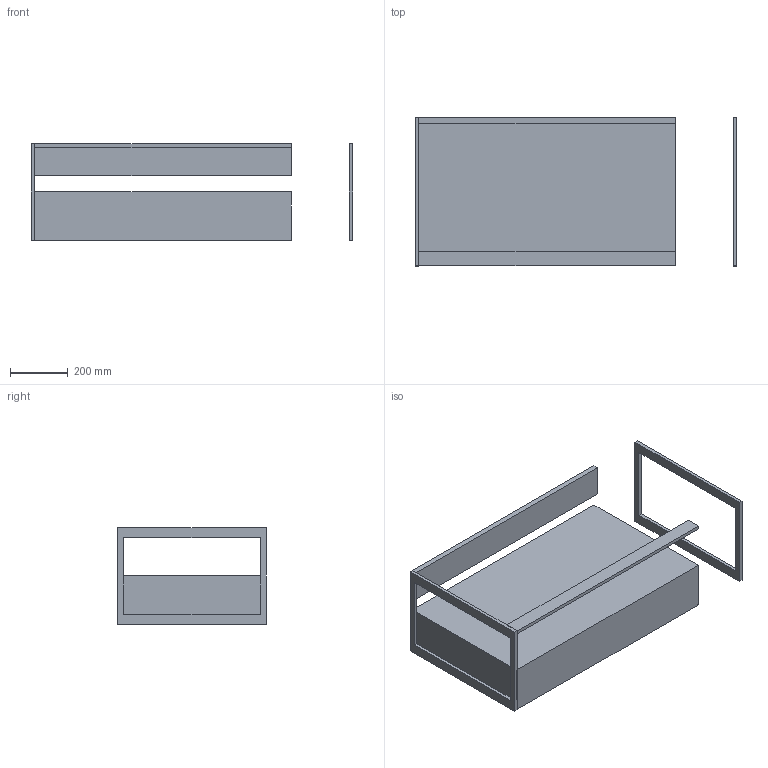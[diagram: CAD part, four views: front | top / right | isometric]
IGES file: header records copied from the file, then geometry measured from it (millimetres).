
Start section: Data from Parasolid IGES Translator 19.0.9, Copyright(c) 2006 Siemens PL M Software. All Rights Reserved.
Global section: file name: noorth-FJ-H 33,5 D 51,2 W 90_6701.igs; native system: By Siemens PLM Incorporated; preprocessor: XPlus GENERIC/IGES 19.0.9; author: Noname; organization: Noname; date: 20200507.120643; units: metre
Bounding box: 1112 x 512 x 335 mm (x, y, z)
Volume: 24131977 mm3; surface area: 3347108.8 mm2
Topology: 10 solids, 10 shells, 70 faces, 150 edges, 100 vertices
Faces by surface type: plane 70
